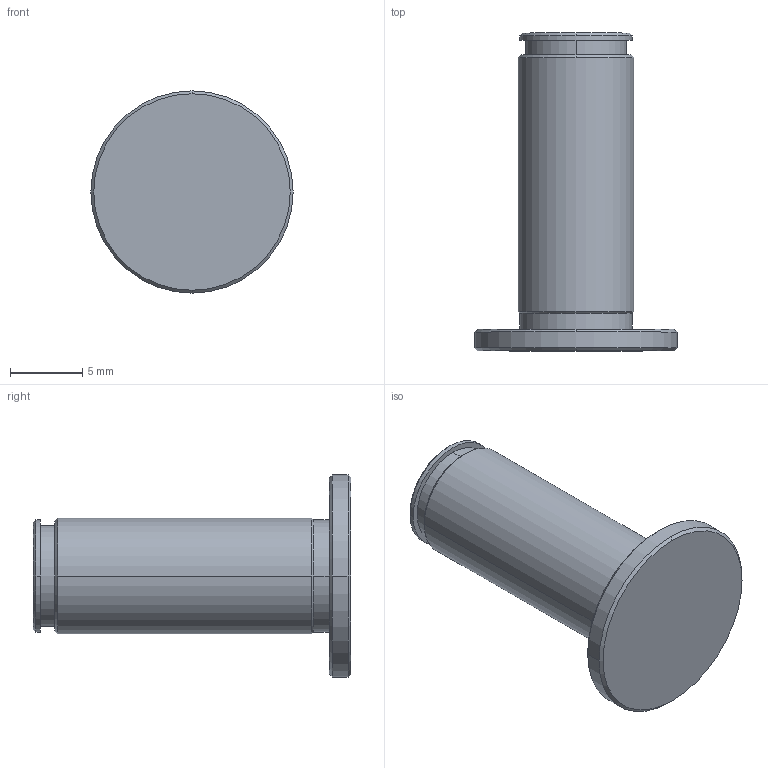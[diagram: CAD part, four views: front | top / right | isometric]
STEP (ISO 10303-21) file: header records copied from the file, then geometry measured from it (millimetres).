
FILE_DESCRIPTION((''),'2;1');
FILE_NAME('KD-D-505X_LINKAGEPIN_1','2025-07-12T16:35:43',('Administrator'),(''),'CREO PARAMETRIC BY PTC INC, 2022073','CREO PARAMETRIC BY PTC INC, 2022073','');
FILE_SCHEMA(('CONFIG_CONTROL_DESIGN'));
Length unit declared in the file: millimetre
Products named in the file (1): KD-D-505X_LINKAGEPIN_1
Bounding box: 14 x 22 x 14 mm (x, y, z)
Volume: 1242.8 mm3; surface area: 890.7 mm2
Topology: 1 solids, 1 shells, 25 faces, 58 edges, 38 vertices
Faces by surface type: cone 10, cylinder 10, plane 5
Entity records: 772 total; most frequent: DIRECTION 146, CARTESIAN_POINT 121, ORIENTED_EDGE 116, AXIS2_PLACEMENT_3D 63, EDGE_CURVE 58, VERTEX_POINT 38, CIRCLE 38, EDGE_LOOP 28
